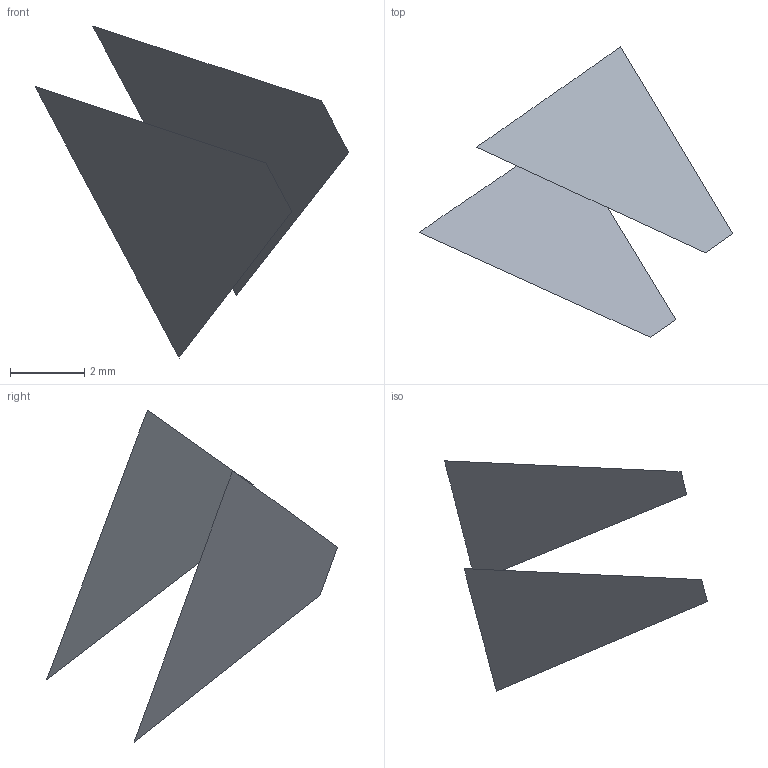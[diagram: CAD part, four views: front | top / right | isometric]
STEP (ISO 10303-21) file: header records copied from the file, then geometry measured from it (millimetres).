
FILE_DESCRIPTION(('FreeCAD Model'),'2;1');
FILE_NAME('Open CASCADE Shape Model','2022-05-22T07:50:31',('FreeCAD'),( 'FreeCAD'),'Open CASCADE STEP processor 7.5','FreeCAD','Unknown');
FILE_SCHEMA(('AUTOMOTIVE_DESIGN { 1 0 10303 214 1 1 1 1 }'));
Length unit declared in the file: millimetre
Products named in the file (3): Open CASCADE STEP translator 7.5 7; Open CASCADE STEP translator 7.5 7.1; Open CASCADE STEP translator 7.5 7.2
Assembly tree (2 placements, depth 2):
  Open CASCADE STEP translator 7.5 7
    Open CASCADE STEP translator 7.5 7.1
    Open CASCADE STEP translator 7.5 7.2
Bounding box: 8.43 x 7.82 x 8.93 mm (x, y, z)
Surface area: 62.8 mm2 (no closed solid volume)
Topology: 0 solids, 2 shells, 2 faces, 34 edges, 34 vertices
Faces by surface type: bspline 2
Entity records: 514 total; most frequent: CARTESIAN_POINT 181, B_SPLINE_CURVE_WITH_KNOTS 68, ORIENTED_EDGE 34, EDGE_CURVE 34, VERTEX_POINT 34, SURFACE_CURVE 34, PCURVE 34, DEFINITIONAL_REPRESENTATION 34
